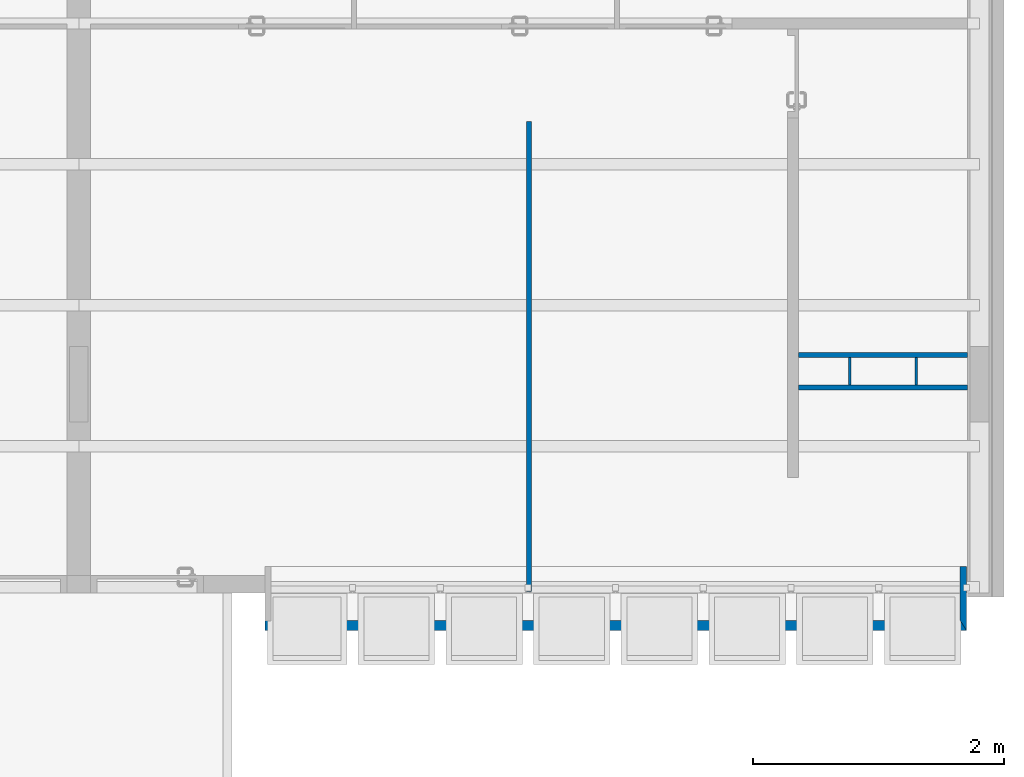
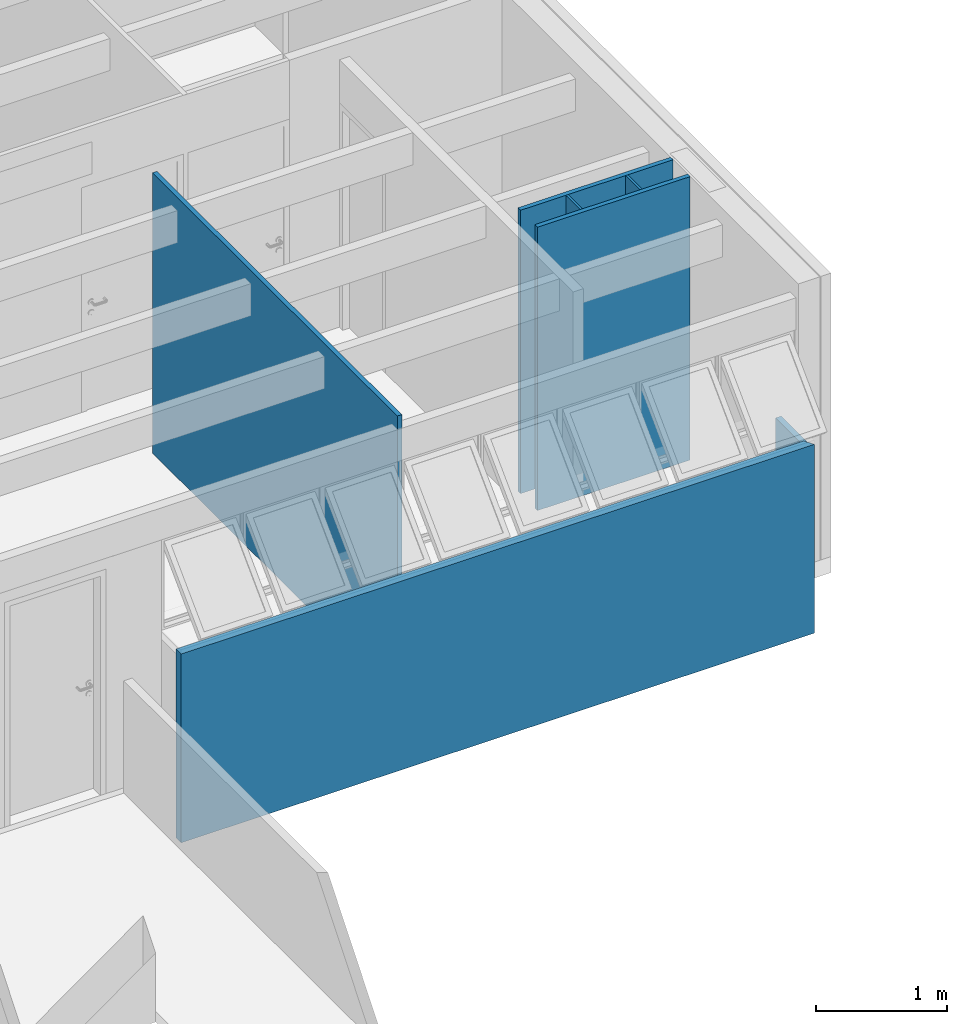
# One storey, part 23 of 37: 7 walls.
"""IFC2X3 building model written with IfcOpenShell, lengths in millimetres."""

from ifc_helpers import new_model, entity, si_unit, converted_unit, derived_unit, money_unit, direction, frame, origin_with_axes, place, context, subcontext, project, spatial, polyline, outline, extrude, material, layer, layer_set, layer_usage, type_object, element, save


model = new_model("IFC2X3")

# Units and contexts
model_context = context("Model", 3, precision=0.01, world=origin_with_axes(), true_north=direction((0.0, 1.0)))
body_context = subcontext(model_context, "Body", "Model", "MODEL_VIEW")
ifc_project = project(units=[si_unit("LENGTHUNIT", "METRE", prefix="MILLI"), si_unit("AREAUNIT", "SQUARE_METRE"), si_unit("VOLUMEUNIT", "CUBIC_METRE"), converted_unit("PLANEANGLEUNIT", "DEGREE", entity("IfcPlaneAngleMeasure", 0.0174532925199), si_unit("PLANEANGLEUNIT", "RADIAN"), dimensions=[0, 0, 0, 0, 0, 0, 0]), money_unit("USD"), converted_unit("TIMEUNIT", "Year", entity("IfcTimeMeasure", 31556926.0), si_unit("TIMEUNIT", "SECOND"), dimensions=[0, 0, 1, 0, 0, 0, 0]), si_unit("MASSUNIT", "GRAM", prefix="KILO"), si_unit("THERMODYNAMICTEMPERATUREUNIT", "DEGREE_CELSIUS"), si_unit("LUMINOUSINTENSITYUNIT", "LUMEN"), si_unit("ENERGYUNIT", "JOULE", prefix="MEGA"), derived_unit("THERMALCONDUCTANCEUNIT", [(si_unit("POWERUNIT", "WATT"), 1), (si_unit("LENGTHUNIT", "METRE"), -1), (si_unit("THERMODYNAMICTEMPERATUREUNIT", "KELVIN"), -1)]), derived_unit("SPECIFICHEATCAPACITYUNIT", [(si_unit("ENERGYUNIT", "JOULE"), 1), (si_unit("MASSUNIT", "GRAM", prefix="KILO"), -1), (si_unit("THERMODYNAMICTEMPERATUREUNIT", "KELVIN"), -1)]), derived_unit("MASSDENSITYUNIT", [(si_unit("MASSUNIT", "GRAM", prefix="KILO"), 1), (si_unit("VOLUMEUNIT", "CUBIC_METRE"), -1)])], contexts=[model_context])

# Site, building, storey
site_placement = place(None, origin_with_axes())
site = spatial("IfcSite", under=ifc_project, at=site_placement, Name="Local", CompositionType="ELEMENT")
building_placement = place(site_placement, origin_with_axes())
building = spatial("IfcBuilding", under=site, at=building_placement, Name="Construção", CompositionType="ELEMENT")
storey_placement = place(building_placement, frame((0.0, 0.0, 5300.0), z_axis=(0.0, 0.0, 1.0), x_axis=(1.0, 0.0, 0.0)))
storey = spatial("IfcBuildingStorey", under=building, at=storey_placement, Name="Terceiro Pavimento", CompositionType="ELEMENT", Elevation=5300.0)

# Walls
ifc_material_1 = material(Name="GENÉRICO - VEDAÇÃO EXTERNA")
ifc_layer_1 = layer(ifc_material_1, 40.0, ventilated="UNKNOWN")
ifc_layer_set_1 = layer_set([ifc_layer_1], Name="GENÉRICO - VEDAÇÃO EXTERNA 40")
ifc_layer_usage_1 = layer_usage(ifc_layer_set_1, "AXIS2", "NEGATIVE", 40.0)
wall_type_1 = type_object("IfcWallType", Name="GENÉRICO - VEDAÇÃO EXTERNA 40", PredefinedType="NOTDEFINED")
wall_1_placement = place(storey_placement, frame((10960.0, 21655.0, 0.0), z_axis=(0.0, 0.0, 1.0), x_axis=(0.0, -1.0, 0.0)))
element("IfcWallStandardCase", 1, at=wall_1_placement, inside=storey, type_object=wall_type_1, material=ifc_layer_usage_1, Name="APTO12-PAREDE-003", context=body_context, shape_type="SweptSolid", body=[
    extrude(outline(polyline([(0.0, 0.0), (3750.0, 0.0), (3750.0, 40.0), (0.0, 40.0), (0.0, 0.0)])), origin_with_axes(), (0.0, 0.0, 1.0), 2620.0),
])
ifc_layer_usage_2 = layer_usage(ifc_layer_set_1, "AXIS2", "NEGATIVE", 40.0)
wall_2_placement = place(storey_placement, frame((14480.0, 19815.0, 0.0), z_axis=(0.0, 0.0, 1.0), x_axis=(-1.0, 0.0, 0.0)))
element("IfcWallStandardCase", 2, at=wall_2_placement, inside=storey, type_object=wall_type_1, material=ifc_layer_usage_2, Name="APTO12-PAREDE-011", context=body_context, shape_type="SweptSolid", body=[
    extrude(outline(polyline([(0.0, 0.0), (1350.0, 0.0), (1350.0, 40.0), (0.0, 40.0), (0.0, 0.0)])), origin_with_axes(), (0.0, 0.0, 1.0), 2650.0),
])
ifc_layer_usage_3 = layer_usage(ifc_layer_set_1, "AXIS2", "NEGATIVE", 40.0)
wall_3_placement = place(storey_placement, frame((13040.0, 19515.0, 0.0), z_axis=(0.0, 0.0, 1.0), x_axis=(1.0, 0.0, 0.0)))
element("IfcWallStandardCase", 3, at=wall_3_placement, inside=storey, type_object=wall_type_1, material=ifc_layer_usage_3, Name="APTO12-PAREDE-010", context=body_context, shape_type="SweptSolid", body=[
    extrude(outline(polyline([(90.0, 0.0), (1440.0, 0.0), (1440.0, 40.0), (90.0, 40.0), (90.0, 0.0)])), origin_with_axes(), (0.0, 0.0, 1.0), 2650.0),
])
ifc_material_2 = material(Name="Concreto Armado Moldado in Loco - Estrutural")
ifc_layer_2 = layer(ifc_material_2, 50.0, ventilated="UNKNOWN")
ifc_layer_set_2 = layer_set([ifc_layer_2], Name="Concreto Armado Moldado in Loco - Estrutural 50")
ifc_layer_usage_4 = layer_usage(ifc_layer_set_2, "AXIS2", "POSITIVE", -50.0)
wall_type_2 = type_object("IfcWallType", Name="Concreto Armado Moldado in Loco - Estrutural 50", PredefinedType="NOTDEFINED")
wall_4_placement = place(storey_placement, frame((14470.0, 18105.0000013, 0.0), z_axis=(0.0, 0.0, 1.0), x_axis=(0.0, -1.0, 0.0)))
element("IfcWallStandardCase", 4, at=wall_4_placement, inside=storey, type_object=wall_type_2, material=ifc_layer_usage_4, Name="APTO12-PAREDE-018", context=body_context, shape_type="SweptSolid", body=[
    extrude(outline(polyline([(0.0, -50.0), (430.0, -50.0), (510.0, 0.0), (0.0, 0.0), (0.0, -50.0)])), origin_with_axes(), (0.0, 0.0, 1.0), 1270.0),
])
ifc_layer_3 = layer(ifc_material_1, 20.0, ventilated="UNKNOWN")
ifc_layer_set_3 = layer_set([ifc_layer_3], Name="GENÉRICO - VEDAÇÃO EXTERNA 20")
ifc_layer_usage_5 = layer_usage(ifc_layer_set_3, "AXIS2", "NEGATIVE", 20.0)
wall_type_3 = type_object("IfcWallType", Name="GENÉRICO - VEDAÇÃO EXTERNA 20", PredefinedType="NOTDEFINED")
wall_5_placement = place(storey_placement, frame((14060.0, 19815.0, 0.0), z_axis=(0.0, 0.0, 1.0), x_axis=(0.0, -1.0, 0.0)))
element("IfcWallStandardCase", 5, at=wall_5_placement, inside=storey, type_object=wall_type_3, material=ifc_layer_usage_5, Name="APTO12-PAREDE-009", context=body_context, shape_type="SweptSolid", body=[
    extrude(outline(polyline([(40.0, 0.0), (260.0, 0.0), (260.0, 20.0), (40.0, 20.0), (40.0, 0.0)])), origin_with_axes(), (0.0, 0.0, 1.0), 2650.0),
])
ifc_layer_usage_6 = layer_usage(ifc_layer_set_3, "AXIS2", "NEGATIVE", 0.0)
wall_6_placement = place(storey_placement, frame((13530.0, 19515.0, 0.0), z_axis=(0.0, 0.0, 1.0), x_axis=(0.0, 1.0, 0.0)))
element("IfcWallStandardCase", 6, at=wall_6_placement, inside=storey, type_object=wall_type_3, material=ifc_layer_usage_6, Name="APTO12-PAREDE-008", context=body_context, shape_type="SweptSolid", body=[
    extrude(outline(polyline([(40.0, -20.0), (260.0, -20.0), (260.0, 0.0), (40.0, 0.0), (40.0, -20.0)])), origin_with_axes(), (0.0, 0.0, 1.0), 2650.0),
])
ifc_layer_4 = layer(ifc_material_2, 80.0, ventilated="UNKNOWN")
ifc_layer_set_4 = layer_set([ifc_layer_4], Name="Concreto Armado Moldado in Loco - Estrutural 80")
ifc_layer_usage_7 = layer_usage(ifc_layer_set_4, "AXIS2", "NEGATIVE", 80.0)
wall_type_4 = type_object("IfcWallType", Name="Concreto Armado Moldado in Loco - Estrutural 80", PredefinedType="NOTDEFINED")
wall_7_placement = place(storey_placement, frame((14470.0, 17675.0000013, -450.0), z_axis=(0.0, 0.0, 1.0), x_axis=(-1.0, 0.0, 0.0)))
element("IfcWallStandardCase", 7, at=wall_7_placement, inside=storey, type_object=wall_type_4, material=ifc_layer_usage_7, Name="APTO12-PAREDE-017", context=body_context, shape_type="SweptSolid", body=[
    extrude(outline(polyline([(50.0, 0.0), (5600.0, 0.0), (5600.0, 80.0), (0.0, 80.0), (50.0, 0.0)])), origin_with_axes(), (0.0, 0.0, 1.0), 1765.0),
])

save(model, "model.ifc")
